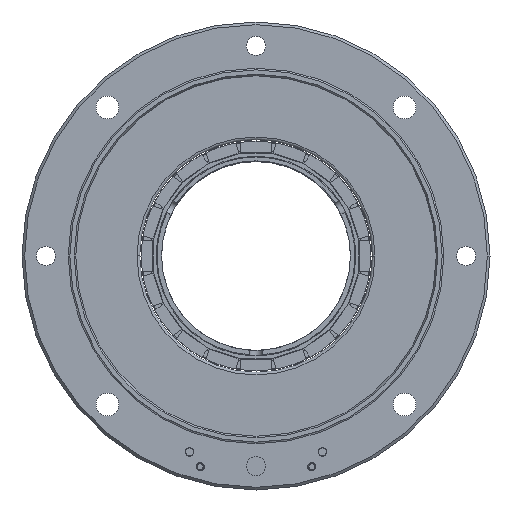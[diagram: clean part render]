
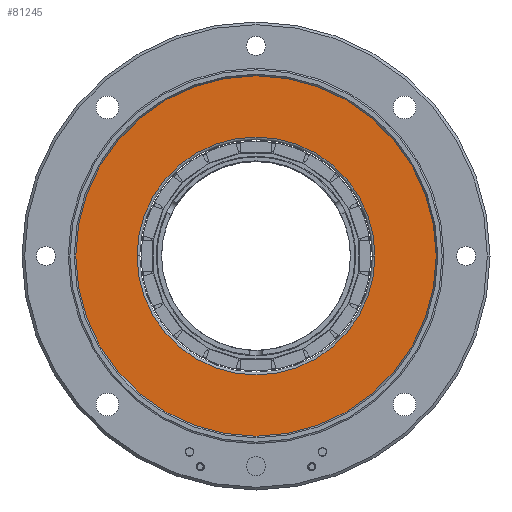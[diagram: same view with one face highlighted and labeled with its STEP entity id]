
A CAD part, left-side view. The second image highlights one B-rep face of the part: STEP entity #81245.
In plain terms, the highlighted planar face has unit normal (-1, 0, 0).
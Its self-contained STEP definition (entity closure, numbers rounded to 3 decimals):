
#24706=CARTESIAN_POINT('',(-1.1,0.,0.));
#24707=DIRECTION('',(-1.,0.,0.));
#24708=DIRECTION('',(0.,1.,0.));
#24709=AXIS2_PLACEMENT_3D('',#24706,#24707,#24708);
#24714=CARTESIAN_POINT('',(-1.1,0.,0.));
#24715=DIRECTION('',(1.,0.,0.));
#24716=DIRECTION('',(0.,1.,0.));
#24717=AXIS2_PLACEMENT_3D('',#24714,#24715,#24716);
#24722=CARTESIAN_POINT('',(-1.1,0.,0.));
#24723=DIRECTION('',(-1.,0.,0.));
#24724=DIRECTION('',(0.,-1.,0.));
#24725=AXIS2_PLACEMENT_3D('',#24722,#24723,#24724);
#24730=CARTESIAN_POINT('',(-1.1,0.,0.));
#24731=DIRECTION('',(-1.,0.,0.));
#24732=DIRECTION('',(0.,1.,0.));
#24733=AXIS2_PLACEMENT_3D('',#24730,#24731,#24732);
#67243=CARTESIAN_POINT('',(-1.1,-22.37,0.));
#67244=CARTESIAN_POINT('',(-1.1,22.37,0.));
#67245=VERTEX_POINT('',#67243);
#67246=VERTEX_POINT('',#67244);
#67248=CARTESIAN_POINT('',(-1.1,33.885,0.));
#67250=VERTEX_POINT('',#67248);
#67252=CARTESIAN_POINT('',(-1.1,-33.885,0.));
#67254=VERTEX_POINT('',#67252);
#81230=CARTESIAN_POINT('',(-1.1,0.,0.));
#81231=DIRECTION('',(1.,0.,0.));
#81232=DIRECTION('',(0.,-1.,0.));
#81233=AXIS2_PLACEMENT_3D('',#81230,#81231,#81232);
#81234=PLANE('',#81233);
#81235=ORIENTED_EDGE('',*,*,#81223,.F.);
#81236=ORIENTED_EDGE('',*,*,#81212,.T.);
#81237=EDGE_LOOP('',(#81235,#81236));
#81238=FACE_OUTER_BOUND('',#81237,.F.);
#81240=ORIENTED_EDGE('',*,*,#81239,.T.);
#81242=ORIENTED_EDGE('',*,*,#81241,.T.);
#81243=EDGE_LOOP('',(#81240,#81242));
#81244=FACE_BOUND('',#81243,.F.);
#81245=ADVANCED_FACE('',(#81238,#81244),#81234,.F.);
#24710=CIRCLE('',#24709,33.885);
#24718=CIRCLE('',#24717,33.885);
#24726=CIRCLE('',#24725,22.37);
#24734=CIRCLE('',#24733,22.37);
#81212=EDGE_CURVE('',#67250,#67254,#24718,.T.);
#81223=EDGE_CURVE('',#67250,#67254,#24710,.T.);
#81239=EDGE_CURVE('',#67245,#67246,#24726,.T.);
#81241=EDGE_CURVE('',#67246,#67245,#24734,.T.);
